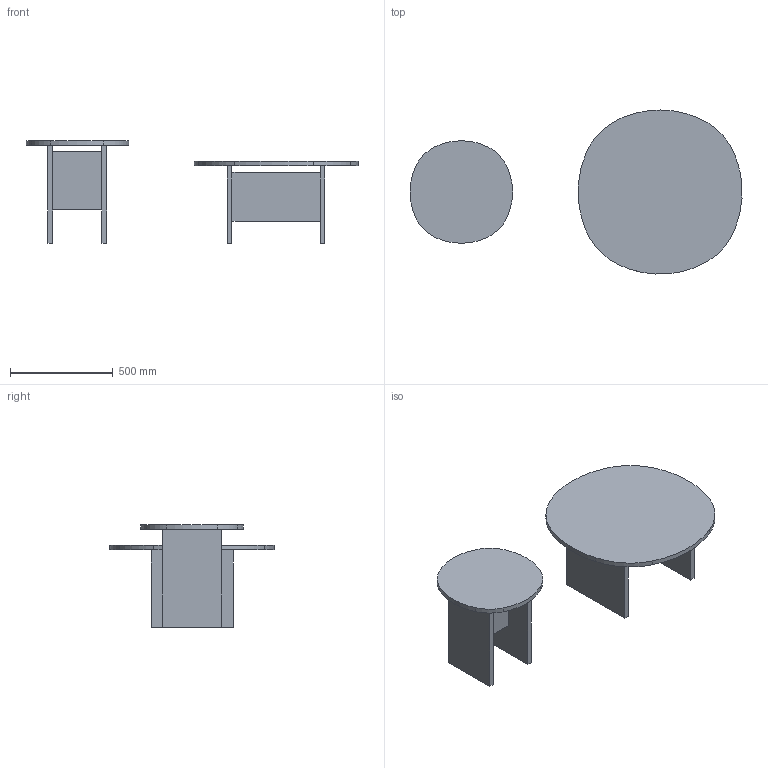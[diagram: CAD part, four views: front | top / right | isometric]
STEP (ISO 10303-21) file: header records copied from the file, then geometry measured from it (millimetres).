
FILE_DESCRIPTION(/* description */ (''),/* implementation_level */ '2;1');
FILE_NAME(/* name */ '3D_GLISS-coffee-table',/* time_stamp */ '2025-04-04T17:54:05+02:00',/* author */ (''),/* organization */ (''),/* preprocessor_version */ 'ST-DEVELOPER v16.5',/* originating_system */ '',/* authorisation */ '');
FILE_SCHEMA (('AUTOMOTIVE_DESIGN'));
Length unit declared in the file: millimetre
Products named in the file (1): Document
Bounding box: 1618.29 x 799.54 x 500 mm (x, y, z)
Volume: 33634664.3 mm3; surface area: 3216401.3 mm2
Topology: 8 solids, 8 shells, 56 faces, 120 edges, 80 vertices
Faces by surface type: plane 40, bspline 16
Entity records: 1336 total; most frequent: CARTESIAN_POINT 490, ORIENTED_EDGE 240, EDGE_CURVE 120, VERTEX_POINT 80, B_SPLINE_CURVE_WITH_KNOTS 72, ADVANCED_FACE 56, FACE_OUTER_BOUND 56, EDGE_LOOP 56
